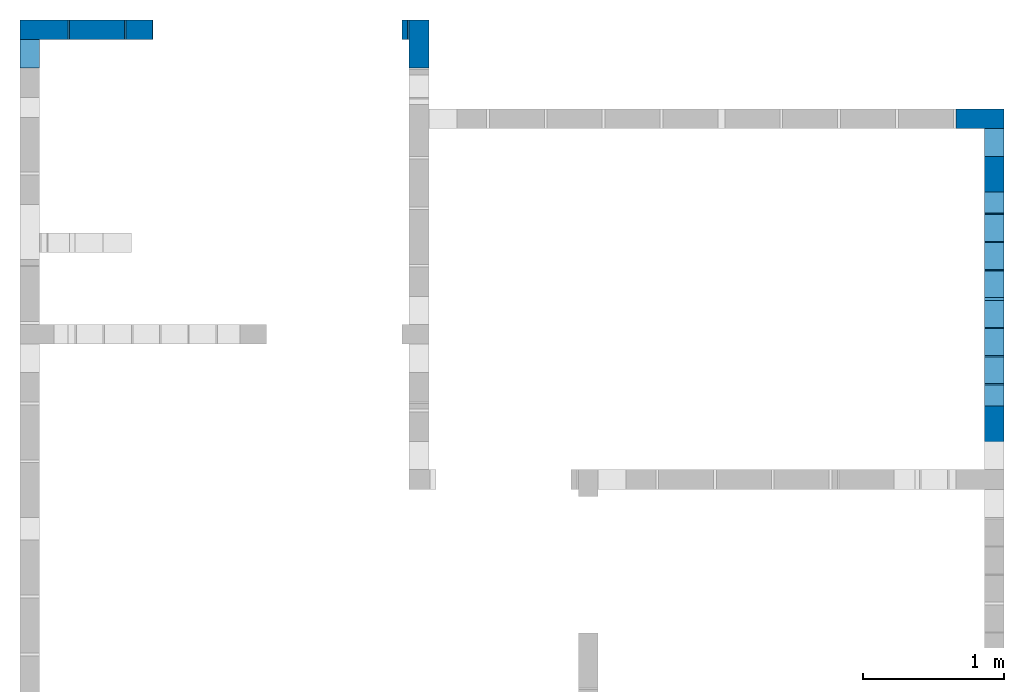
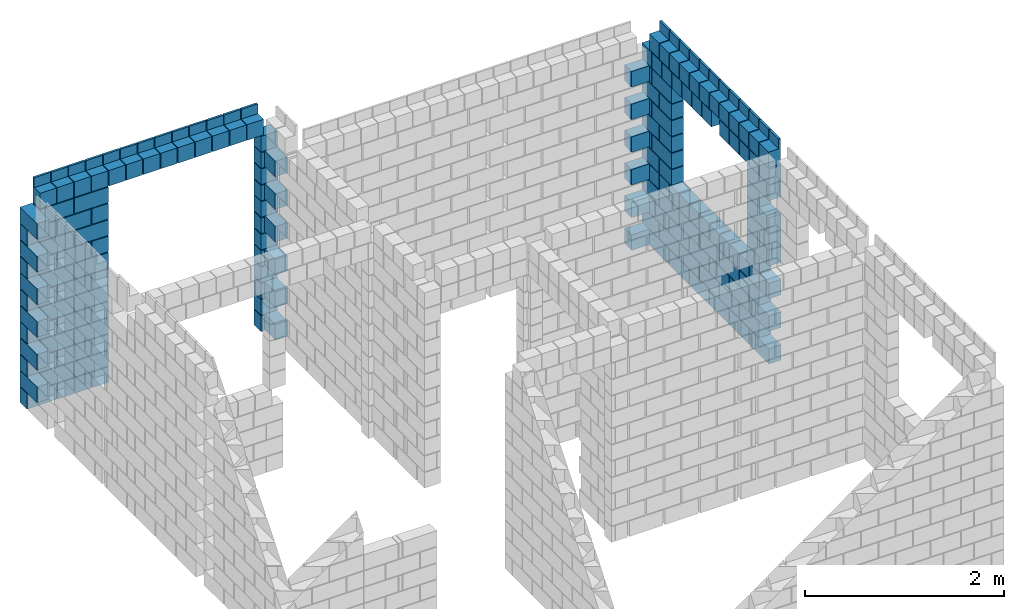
# One storey, part 11 of 12: 6 walls.
"""IFC4 building model written with IfcOpenShell, lengths in centimetres."""

from ifc_helpers import new_model, si_unit, derived_unit, frame, origin, origin_with_axes, origin_2d_with_axis, place, context, project, spatial, rectangle, extrude, element, save


model = new_model("IFC4")

# Units and contexts
model_context = context("Model", 3, precision=1e-05, world=origin_with_axes(), identifier="Body")
ifc_project = project(units=[si_unit("LENGTHUNIT", "METRE", prefix="CENTI"), si_unit("VOLUMEUNIT", "CUBIC_METRE"), si_unit("AREAUNIT", "SQUARE_METRE"), si_unit("POWERUNIT", "WATT"), si_unit("LUMINOUSFLUXUNIT", "LUMEN"), si_unit("ELECTRICCURRENTUNIT", "AMPERE"), si_unit("PRESSUREUNIT", "PASCAL", prefix="KILO"), si_unit("MASSUNIT", "GRAM", prefix="KILO"), si_unit("PLANEANGLEUNIT", "RADIAN"), derived_unit("VOLUMETRICFLOWRATEUNIT", [(si_unit("LENGTHUNIT", "METRE"), 3), (si_unit("TIMEUNIT", "SECOND"), -1)])], contexts=[model_context])

# Site, building, storey
site_placement = place(None, origin_with_axes())
site = spatial("IfcSite", under=ifc_project, at=site_placement)
building_placement = place(site_placement, origin())
building = spatial("IfcBuilding", under=site, at=building_placement)
storey_placement = place(building_placement, origin_with_axes())
storey = spatial("IfcBuildingStorey", under=building, at=storey_placement, Name="PISO", CompositionType="ELEMENT", Elevation=0.0)

# Walls
wall_1_placement = place(storey_placement, frame((18.0, 866.01, 239.0), z_axis=(0.0, 0.0, 1.0), x_axis=(1.0, 0.0, 0.0)))
element("IfcWall", 1, at=wall_1_placement, inside=storey, context=model_context, shape_type="SolidModel", body=[
    extrude(rectangle(XDim=34.0, YDim=14.0, at=origin_2d_with_axis()), frame((0.0, 10.0, -239.0), z_axis=(0.0, 0.0, 1.0), x_axis=(1.0, 0.0, 0.0)), (0.0, 0.0, 1.0), 19.0),
    extrude(rectangle(XDim=34.0, YDim=14.0, at=origin_2d_with_axis()), frame((-10.0, 0.0, -219.0), z_axis=(0.0, 0.0, 1.0), x_axis=(0.0, -1.0, 0.0)), (0.0, 0.0, 1.0), 19.0),
    extrude(rectangle(XDim=34.0, YDim=14.0, at=origin_2d_with_axis()), frame((0.0, 10.0, -199.0), z_axis=(0.0, 0.0, 1.0), x_axis=(1.0, 0.0, 0.0)), (0.0, 0.0, 1.0), 19.0),
    extrude(rectangle(XDim=34.0, YDim=14.0, at=origin_2d_with_axis()), frame((-10.0, 0.0, -179.0), z_axis=(0.0, 0.0, 1.0), x_axis=(0.0, -1.0, 0.0)), (0.0, 0.0, 1.0), 19.0),
    extrude(rectangle(XDim=34.0, YDim=14.0, at=origin_2d_with_axis()), frame((0.0, 10.0, -159.0), z_axis=(0.0, 0.0, 1.0), x_axis=(1.0, 0.0, 0.0)), (0.0, 0.0, 1.0), 19.0),
    extrude(rectangle(XDim=34.0, YDim=14.0, at=origin_2d_with_axis()), frame((-10.0, 0.0, -139.0), z_axis=(0.0, 0.0, 1.0), x_axis=(0.0, -1.0, 0.0)), (0.0, 0.0, 1.0), 19.0),
    extrude(rectangle(XDim=34.0, YDim=14.0, at=origin_2d_with_axis()), frame((0.0, 10.0, -119.0), z_axis=(0.0, 0.0, 1.0), x_axis=(1.0, 0.0, 0.0)), (0.0, 0.0, 1.0), 19.0),
    extrude(rectangle(XDim=34.0, YDim=14.0, at=origin_2d_with_axis()), frame((-10.0, 0.0, -99.0), z_axis=(0.0, 0.0, 1.0), x_axis=(0.0, -1.0, 0.0)), (0.0, 0.0, 1.0), 19.0),
    extrude(rectangle(XDim=34.0, YDim=14.0, at=origin_2d_with_axis()), frame((0.0, 10.0, -79.0), z_axis=(0.0, 0.0, 1.0), x_axis=(1.0, 0.0, 0.0)), (0.0, 0.0, 1.0), 19.0),
    extrude(rectangle(XDim=34.0, YDim=14.0, at=origin_2d_with_axis()), frame((-10.0, 0.0, -59.0), z_axis=(0.0, 0.0, 1.0), x_axis=(0.0, -1.0, 0.0)), (0.0, 0.0, 1.0), 19.0),
    extrude(rectangle(XDim=34.0, YDim=14.0, at=origin_2d_with_axis()), frame((0.0, 10.0, -39.0), z_axis=(0.0, 0.0, 1.0), x_axis=(1.0, 0.0, 0.0)), (0.0, 0.0, 1.0), 19.0),
    extrude(rectangle(XDim=34.0, YDim=14.0, at=origin_2d_with_axis()), frame((-10.0, 0.0, -19.0), z_axis=(0.0, 0.0, 1.0), x_axis=(0.0, -1.0, 0.0)), (0.0, 0.0, 1.0), 19.0),
])
wall_2_placement = place(storey_placement, frame((281.5, 866.01, 239.0), z_axis=(0.0, 0.0, 1.0), x_axis=(1.0, 0.0, 0.0)))
element("IfcWall", 2, at=wall_2_placement, inside=storey, context=model_context, shape_type="SolidModel", body=[
    extrude(rectangle(XDim=34.0, YDim=14.0, at=origin_2d_with_axis()), frame((2.5, 0.0, -239.0), z_axis=(0.0, 0.0, 1.0), x_axis=(0.0, -1.0, 0.0)), (0.0, 0.0, 1.0), 19.0),
    extrude(rectangle(XDim=19.0, YDim=14.0, at=origin_2d_with_axis()), frame((0.0, 10.0, -219.0), z_axis=(0.0, 0.0, 1.0), x_axis=(-1.0, 0.0, 0.0)), (0.0, 0.0, 1.0), 19.0),
    extrude(rectangle(XDim=34.0, YDim=14.0, at=origin_2d_with_axis()), frame((2.5, 0.0, -199.0), z_axis=(0.0, 0.0, 1.0), x_axis=(0.0, -1.0, 0.0)), (0.0, 0.0, 1.0), 19.0),
    extrude(rectangle(XDim=19.0, YDim=14.0, at=origin_2d_with_axis()), frame((0.0, 10.0, -179.0), z_axis=(0.0, 0.0, 1.0), x_axis=(-1.0, 0.0, 0.0)), (0.0, 0.0, 1.0), 19.0),
    extrude(rectangle(XDim=34.0, YDim=14.0, at=origin_2d_with_axis()), frame((2.5, 0.0, -159.0), z_axis=(0.0, 0.0, 1.0), x_axis=(0.0, -1.0, 0.0)), (0.0, 0.0, 1.0), 19.0),
    extrude(rectangle(XDim=19.0, YDim=14.0, at=origin_2d_with_axis()), frame((0.0, 10.0, -139.0), z_axis=(0.0, 0.0, 1.0), x_axis=(-1.0, 0.0, 0.0)), (0.0, 0.0, 1.0), 19.0),
    extrude(rectangle(XDim=34.0, YDim=14.0, at=origin_2d_with_axis()), frame((2.5, 0.0, -119.0), z_axis=(0.0, 0.0, 1.0), x_axis=(0.0, -1.0, 0.0)), (0.0, 0.0, 1.0), 19.0),
    extrude(rectangle(XDim=19.0, YDim=14.0, at=origin_2d_with_axis()), frame((0.0, 10.0, -99.0), z_axis=(0.0, 0.0, 1.0), x_axis=(-1.0, 0.0, 0.0)), (0.0, 0.0, 1.0), 19.0),
    extrude(rectangle(XDim=34.0, YDim=14.0, at=origin_2d_with_axis()), frame((2.5, 0.0, -79.0), z_axis=(0.0, 0.0, 1.0), x_axis=(0.0, -1.0, 0.0)), (0.0, 0.0, 1.0), 19.0),
    extrude(rectangle(XDim=19.0, YDim=14.0, at=origin_2d_with_axis()), frame((0.0, 10.0, -59.0), z_axis=(0.0, 0.0, 1.0), x_axis=(-1.0, 0.0, 0.0)), (0.0, 0.0, 1.0), 19.0),
    extrude(rectangle(XDim=34.0, YDim=14.0, at=origin_2d_with_axis()), frame((2.5, 0.0, -39.0), z_axis=(0.0, 0.0, 1.0), x_axis=(0.0, -1.0, 0.0)), (0.0, 0.0, 1.0), 19.0),
    extrude(rectangle(XDim=19.0, YDim=14.0, at=origin_2d_with_axis()), frame((0.0, 10.0, -19.0), z_axis=(0.0, 0.0, 1.0), x_axis=(-1.0, 0.0, 0.0)), (0.0, 0.0, 1.0), 19.0),
])
wall_3_placement = place(storey_placement, frame((682.01, 803.01, 239.0), z_axis=(0.0, 0.0, 1.0), x_axis=(1.0, 0.0, 0.0)))
element("IfcWall", 3, at=wall_3_placement, inside=storey, context=model_context, shape_type="SolidModel", body=[
    extrude(rectangle(XDim=34.0, YDim=14.0, at=origin_2d_with_axis()), frame((0.0, 10.0, -239.0), z_axis=(0.0, 0.0, 1.0), x_axis=(-1.0, 0.0, 0.0)), (0.0, 0.0, 1.0), 19.0),
    extrude(rectangle(XDim=34.0, YDim=14.0, at=origin_2d_with_axis()), frame((10.0, 0.0, -219.0), z_axis=(0.0, 0.0, 1.0), x_axis=(0.0, -1.0, 0.0)), (0.0, 0.0, 1.0), 19.0),
    extrude(rectangle(XDim=34.0, YDim=14.0, at=origin_2d_with_axis()), frame((0.0, 10.0, -199.0), z_axis=(0.0, 0.0, 1.0), x_axis=(-1.0, 0.0, 0.0)), (0.0, 0.0, 1.0), 19.0),
    extrude(rectangle(XDim=34.0, YDim=14.0, at=origin_2d_with_axis()), frame((10.0, 0.0, -179.0), z_axis=(0.0, 0.0, 1.0), x_axis=(0.0, -1.0, 0.0)), (0.0, 0.0, 1.0), 19.0),
    extrude(rectangle(XDim=34.0, YDim=14.0, at=origin_2d_with_axis()), frame((0.0, 10.0, -159.0), z_axis=(0.0, 0.0, 1.0), x_axis=(-1.0, 0.0, 0.0)), (0.0, 0.0, 1.0), 19.0),
    extrude(rectangle(XDim=34.0, YDim=14.0, at=origin_2d_with_axis()), frame((10.0, 0.0, -139.0), z_axis=(0.0, 0.0, 1.0), x_axis=(0.0, -1.0, 0.0)), (0.0, 0.0, 1.0), 19.0),
    extrude(rectangle(XDim=34.0, YDim=14.0, at=origin_2d_with_axis()), frame((0.0, 10.0, -119.0), z_axis=(0.0, 0.0, 1.0), x_axis=(-1.0, 0.0, 0.0)), (0.0, 0.0, 1.0), 19.0),
    extrude(rectangle(XDim=34.0, YDim=14.0, at=origin_2d_with_axis()), frame((10.0, 0.0, -99.0), z_axis=(0.0, 0.0, 1.0), x_axis=(0.0, -1.0, 0.0)), (0.0, 0.0, 1.0), 19.0),
    extrude(rectangle(XDim=34.0, YDim=14.0, at=origin_2d_with_axis()), frame((0.0, 10.0, -79.0), z_axis=(0.0, 0.0, 1.0), x_axis=(-1.0, 0.0, 0.0)), (0.0, 0.0, 1.0), 19.0),
    extrude(rectangle(XDim=34.0, YDim=14.0, at=origin_2d_with_axis()), frame((10.0, 0.0, -59.0), z_axis=(0.0, 0.0, 1.0), x_axis=(0.0, -1.0, 0.0)), (0.0, 0.0, 1.0), 19.0),
    extrude(rectangle(XDim=34.0, YDim=14.0, at=origin_2d_with_axis()), frame((0.0, 10.0, -39.0), z_axis=(0.0, 0.0, 1.0), x_axis=(-1.0, 0.0, 0.0)), (0.0, 0.0, 1.0), 19.0),
    extrude(rectangle(XDim=19.0, YDim=14.0, at=origin_2d_with_axis()), frame((10.0, 7.5, -19.0), z_axis=(0.0, 0.0, 1.0), x_axis=(0.0, -1.0, 0.0)), (0.0, 0.0, 1.0), 19.0),
])
wall_4_placement = place(storey_placement, frame((55.642857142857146, 876.01, 271.0), z_axis=(0.0, 0.0, 1.0), x_axis=(1.0, 0.0, 0.0)))
element("IfcWall", 4, at=wall_4_placement, inside=storey, Name="PAR-PISO-1", context=model_context, shape_type="SolidModel", body=[
    extrude(rectangle(XDim=39.0, YDim=14.0, at=origin_2d_with_axis()), frame((0.0, 0.0, -271.0), z_axis=(0.0, 0.0, 1.0), x_axis=(1.0, 0.0, 0.0)), (0.0, 0.0, 1.0), 19.0),
    extrude(rectangle(XDim=19.0, YDim=14.0, at=origin_2d_with_axis()), frame((30.0, 0.0, -271.0), z_axis=(0.0, 0.0, 1.0), x_axis=(1.0, 0.0, 0.0)), (0.0, 0.0, 1.0), 19.0),
    extrude(rectangle(XDim=39.0, YDim=14.0, at=origin_2d_with_axis()), frame((-20.0, 0.0, -251.0), z_axis=(0.0, 0.0, 1.0), x_axis=(1.0, 0.0, 0.0)), (0.0, 0.0, 1.0), 19.0),
    extrude(rectangle(XDim=39.0, YDim=14.0, at=origin_2d_with_axis()), frame((20.142857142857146, 0.0, -251.0), z_axis=(0.0, 0.0, 1.0), x_axis=(1.0, 0.0, 0.0)), (0.0, 0.0, 1.0), 19.0),
    extrude(rectangle(XDim=39.0, YDim=14.0, at=origin_2d_with_axis()), frame((0.0, 0.0, -231.0), z_axis=(0.0, 0.0, 1.0), x_axis=(1.0, 0.0, 0.0)), (0.0, 0.0, 1.0), 19.0),
    extrude(rectangle(XDim=19.0, YDim=14.0, at=origin_2d_with_axis()), frame((30.0, 0.0, -231.0), z_axis=(0.0, 0.0, 1.0), x_axis=(1.0, 0.0, 0.0)), (0.0, 0.0, 1.0), 19.0),
    extrude(rectangle(XDim=39.0, YDim=14.0, at=origin_2d_with_axis()), frame((-20.0, 0.0, -211.0), z_axis=(0.0, 0.0, 1.0), x_axis=(1.0, 0.0, 0.0)), (0.0, 0.0, 1.0), 19.0),
    extrude(rectangle(XDim=39.0, YDim=14.0, at=origin_2d_with_axis()), frame((20.142857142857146, 0.0, -211.0), z_axis=(0.0, 0.0, 1.0), x_axis=(1.0, 0.0, 0.0)), (0.0, 0.0, 1.0), 19.0),
    extrude(rectangle(XDim=39.0, YDim=14.0, at=origin_2d_with_axis()), frame((0.0, 0.0, -191.0), z_axis=(0.0, 0.0, 1.0), x_axis=(1.0, 0.0, 0.0)), (0.0, 0.0, 1.0), 19.0),
    extrude(rectangle(XDim=19.0, YDim=14.0, at=origin_2d_with_axis()), frame((30.0, 0.0, -191.0), z_axis=(0.0, 0.0, 1.0), x_axis=(1.0, 0.0, 0.0)), (0.0, 0.0, 1.0), 19.0),
    extrude(rectangle(XDim=39.0, YDim=14.0, at=origin_2d_with_axis()), frame((-20.0, 0.0, -171.0), z_axis=(0.0, 0.0, 1.0), x_axis=(1.0, 0.0, 0.0)), (0.0, 0.0, 1.0), 19.0),
    extrude(rectangle(XDim=39.0, YDim=14.0, at=origin_2d_with_axis()), frame((20.142857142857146, 0.0, -171.0), z_axis=(0.0, 0.0, 1.0), x_axis=(1.0, 0.0, 0.0)), (0.0, 0.0, 1.0), 19.0),
    extrude(rectangle(XDim=39.0, YDim=14.0, at=origin_2d_with_axis()), frame((0.0, 0.0, -151.0), z_axis=(0.0, 0.0, 1.0), x_axis=(1.0, 0.0, 0.0)), (0.0, 0.0, 1.0), 19.0),
    extrude(rectangle(XDim=19.0, YDim=14.0, at=origin_2d_with_axis()), frame((30.0, 0.0, -151.0), z_axis=(0.0, 0.0, 1.0), x_axis=(1.0, 0.0, 0.0)), (0.0, 0.0, 1.0), 19.0),
    extrude(rectangle(XDim=39.0, YDim=14.0, at=origin_2d_with_axis()), frame((-20.0, 0.0, -131.0), z_axis=(0.0, 0.0, 1.0), x_axis=(1.0, 0.0, 0.0)), (0.0, 0.0, 1.0), 19.0),
    extrude(rectangle(XDim=39.0, YDim=14.0, at=origin_2d_with_axis()), frame((20.142857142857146, 0.0, -131.0), z_axis=(0.0, 0.0, 1.0), x_axis=(1.0, 0.0, 0.0)), (0.0, 0.0, 1.0), 19.0),
    extrude(rectangle(XDim=39.0, YDim=14.0, at=origin_2d_with_axis()), frame((0.0, 0.0, -111.0), z_axis=(0.0, 0.0, 1.0), x_axis=(1.0, 0.0, 0.0)), (0.0, 0.0, 1.0), 19.0),
    extrude(rectangle(XDim=19.0, YDim=14.0, at=origin_2d_with_axis()), frame((30.0, 0.0, -111.0), z_axis=(0.0, 0.0, 1.0), x_axis=(1.0, 0.0, 0.0)), (0.0, 0.0, 1.0), 19.0),
    extrude(rectangle(XDim=39.0, YDim=14.0, at=origin_2d_with_axis()), frame((-20.0, 0.0, -91.0), z_axis=(0.0, 0.0, 1.0), x_axis=(1.0, 0.0, 0.0)), (0.0, 0.0, 1.0), 19.0),
    extrude(rectangle(XDim=39.0, YDim=14.0, at=origin_2d_with_axis()), frame((20.142857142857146, 0.0, -91.0), z_axis=(0.0, 0.0, 1.0), x_axis=(1.0, 0.0, 0.0)), (0.0, 0.0, 1.0), 19.0),
    extrude(rectangle(XDim=39.0, YDim=14.0, at=origin_2d_with_axis()), frame((0.0, 0.0, -71.0), z_axis=(0.0, 0.0, 1.0), x_axis=(1.0, 0.0, 0.0)), (0.0, 0.0, 1.0), 19.0),
    extrude(rectangle(XDim=19.0, YDim=14.0, at=origin_2d_with_axis()), frame((30.0, 0.0, -71.0), z_axis=(0.0, 0.0, 1.0), x_axis=(1.0, 0.0, 0.0)), (0.0, 0.0, 1.0), 19.0),
    extrude(rectangle(XDim=39.0, YDim=14.0, at=origin_2d_with_axis()), frame((-20.0, 0.0, -51.0), z_axis=(0.0, 0.0, 1.0), x_axis=(1.0, 0.0, 0.0)), (0.0, 0.0, 1.0), 19.0),
    extrude(rectangle(XDim=39.0, YDim=14.0, at=origin_2d_with_axis()), frame((20.142857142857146, 0.0, -51.0), z_axis=(0.0, 0.0, 1.0), x_axis=(1.0, 0.0, 0.0)), (0.0, 0.0, 1.0), 19.0),
    extrude(rectangle(XDim=19.0, YDim=2.5, at=origin_2d_with_axis()), frame((-30.142857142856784, 5.75, -12.0), z_axis=(0.0, 0.0, 1.0), x_axis=(1.0, 0.0, 0.0)), (0.0, 0.0, 1.0), 12.0),
    extrude(rectangle(XDim=19.0, YDim=14.0, at=origin_2d_with_axis()), frame((-30.142857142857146, 0.0, -31.0), z_axis=(0.0, 0.0, 1.0), x_axis=(1.0, 0.0, 0.0)), (0.0, 0.0, 1.0), 19.0),
    extrude(rectangle(XDim=19.0, YDim=2.5, at=origin_2d_with_axis()), frame((-10.142857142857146, 5.75, -12.0), z_axis=(0.0, 0.0, 1.0), x_axis=(1.0, 0.0, 0.0)), (0.0, 0.0, 1.0), 12.0),
    extrude(rectangle(XDim=19.0, YDim=14.0, at=origin_2d_with_axis()), frame((-10.142857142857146, 0.0, -31.0), z_axis=(0.0, 0.0, 1.0), x_axis=(1.0, 0.0, 0.0)), (0.0, 0.0, 1.0), 19.0),
    extrude(rectangle(XDim=19.0, YDim=2.5, at=origin_2d_with_axis()), frame((9.857142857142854, 5.75, -12.0), z_axis=(0.0, 0.0, 1.0), x_axis=(1.0, 0.0, 0.0)), (0.0, 0.0, 1.0), 12.0),
    extrude(rectangle(XDim=19.0, YDim=14.0, at=origin_2d_with_axis()), frame((9.857142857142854, 0.0, -31.0), z_axis=(0.0, 0.0, 1.0), x_axis=(1.0, 0.0, 0.0)), (0.0, 0.0, 1.0), 19.0),
    extrude(rectangle(XDim=19.0, YDim=2.5, at=origin_2d_with_axis()), frame((29.857142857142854, 5.75, -12.0), z_axis=(0.0, 0.0, 1.0), x_axis=(1.0, 0.0, 0.0)), (0.0, 0.0, 1.0), 12.0),
    extrude(rectangle(XDim=19.0, YDim=14.0, at=origin_2d_with_axis()), frame((29.857142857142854, 0.0, -31.0), z_axis=(0.0, 0.0, 1.0), x_axis=(1.0, 0.0, 0.0)), (0.0, 0.0, 1.0), 19.0),
])
wall_5_placement = place(storey_placement, frame((186.0, 876.01, 271.0), z_axis=(0.0, 0.0, 1.0), x_axis=(1.0, 0.0, 0.0)))
element("IfcWall", 5, at=wall_5_placement, inside=storey, Name="PAR-PISO-1", context=model_context, shape_type="SolidModel", body=[
    extrude(rectangle(XDim=4.0, YDim=14.0, at=origin_2d_with_axis()), frame((88.0, 0.0, -271.0), z_axis=(0.0, 0.0, 1.0), x_axis=(1.0, 0.0, 0.0)), (0.0, 0.0, 1.0), 19.0),
    extrude(rectangle(XDim=4.0, YDim=14.0, at=origin_2d_with_axis()), frame((88.0, 0.0, -231.0), z_axis=(0.0, 0.0, 1.0), x_axis=(1.0, 0.0, 0.0)), (0.0, 0.0, 1.0), 19.0),
    extrude(rectangle(XDim=4.0, YDim=14.0, at=origin_2d_with_axis()), frame((88.0, 0.0, -191.0), z_axis=(0.0, 0.0, 1.0), x_axis=(1.0, 0.0, 0.0)), (0.0, 0.0, 1.0), 19.0),
    extrude(rectangle(XDim=4.0, YDim=14.0, at=origin_2d_with_axis()), frame((88.0, 0.0, -151.0), z_axis=(0.0, 0.0, 1.0), x_axis=(1.0, 0.0, 0.0)), (0.0, 0.0, 1.0), 19.0),
    extrude(rectangle(XDim=4.0, YDim=14.0, at=origin_2d_with_axis()), frame((88.0, 0.0, -111.0), z_axis=(0.0, 0.0, 1.0), x_axis=(1.0, 0.0, 0.0)), (0.0, 0.0, 1.0), 19.0),
    extrude(rectangle(XDim=4.0, YDim=14.0, at=origin_2d_with_axis()), frame((88.0, 0.0, -71.0), z_axis=(0.0, 0.0, 1.0), x_axis=(1.0, 0.0, 0.0)), (0.0, 0.0, 1.0), 19.0),
    extrude(rectangle(XDim=19.0, YDim=2.5, at=origin_2d_with_axis()), frame((-80.5, 5.75, -12.0), z_axis=(0.0, 0.0, 1.0), x_axis=(1.0, 0.0, 0.0)), (0.0, 0.0, 1.0), 12.0),
    extrude(rectangle(XDim=19.0, YDim=14.0, at=origin_2d_with_axis()), frame((-80.5, 0.0, -31.0), z_axis=(0.0, 0.0, 1.0), x_axis=(1.0, 0.0, 0.0)), (0.0, 0.0, 1.0), 19.0),
    extrude(rectangle(XDim=19.0, YDim=2.5, at=origin_2d_with_axis()), frame((-60.5, 5.75, -12.0), z_axis=(0.0, 0.0, 1.0), x_axis=(1.0, 0.0, 0.0)), (0.0, 0.0, 1.0), 12.0),
    extrude(rectangle(XDim=19.0, YDim=14.0, at=origin_2d_with_axis()), frame((-60.5, 0.0, -31.0), z_axis=(0.0, 0.0, 1.0), x_axis=(1.0, 0.0, 0.0)), (0.0, 0.0, 1.0), 19.0),
    extrude(rectangle(XDim=19.0, YDim=2.5, at=origin_2d_with_axis()), frame((-40.5, 5.75, -12.0), z_axis=(0.0, 0.0, 1.0), x_axis=(1.0, 0.0, 0.0)), (0.0, 0.0, 1.0), 12.0),
    extrude(rectangle(XDim=19.0, YDim=14.0, at=origin_2d_with_axis()), frame((-40.5, 0.0, -31.0), z_axis=(0.0, 0.0, 1.0), x_axis=(1.0, 0.0, 0.0)), (0.0, 0.0, 1.0), 19.0),
    extrude(rectangle(XDim=19.0, YDim=2.5, at=origin_2d_with_axis()), frame((-20.5, 5.75, -12.0), z_axis=(0.0, 0.0, 1.0), x_axis=(1.0, 0.0, 0.0)), (0.0, 0.0, 1.0), 12.0),
    extrude(rectangle(XDim=19.0, YDim=14.0, at=origin_2d_with_axis()), frame((-20.5, 0.0, -31.0), z_axis=(0.0, 0.0, 1.0), x_axis=(1.0, 0.0, 0.0)), (0.0, 0.0, 1.0), 19.0),
    extrude(rectangle(XDim=19.0, YDim=2.5, at=origin_2d_with_axis()), frame((-0.5, 5.75, -12.0), z_axis=(0.0, 0.0, 1.0), x_axis=(1.0, 0.0, 0.0)), (0.0, 0.0, 1.0), 12.0),
    extrude(rectangle(XDim=19.0, YDim=14.0, at=origin_2d_with_axis()), frame((-0.5, 0.0, -31.0), z_axis=(0.0, 0.0, 1.0), x_axis=(1.0, 0.0, 0.0)), (0.0, 0.0, 1.0), 19.0),
    extrude(rectangle(XDim=19.0, YDim=2.5, at=origin_2d_with_axis()), frame((19.5, 5.75, -12.0), z_axis=(0.0, 0.0, 1.0), x_axis=(1.0, 0.0, 0.0)), (0.0, 0.0, 1.0), 12.0),
    extrude(rectangle(XDim=19.0, YDim=14.0, at=origin_2d_with_axis()), frame((19.5, 0.0, -31.0), z_axis=(0.0, 0.0, 1.0), x_axis=(1.0, 0.0, 0.0)), (0.0, 0.0, 1.0), 19.0),
    extrude(rectangle(XDim=19.0, YDim=2.5, at=origin_2d_with_axis()), frame((39.5, 5.75, -12.0), z_axis=(0.0, 0.0, 1.0), x_axis=(1.0, 0.0, 0.0)), (0.0, 0.0, 1.0), 12.0),
    extrude(rectangle(XDim=19.0, YDim=14.0, at=origin_2d_with_axis()), frame((39.5, 0.0, -31.0), z_axis=(0.0, 0.0, 1.0), x_axis=(1.0, 0.0, 0.0)), (0.0, 0.0, 1.0), 19.0),
    extrude(rectangle(XDim=19.0, YDim=2.5, at=origin_2d_with_axis()), frame((59.5, 5.75, -12.0), z_axis=(0.0, 0.0, 1.0), x_axis=(1.0, 0.0, 0.0)), (0.0, 0.0, 1.0), 12.0),
    extrude(rectangle(XDim=19.0, YDim=14.0, at=origin_2d_with_axis()), frame((59.5, 0.0, -31.0), z_axis=(0.0, 0.0, 1.0), x_axis=(1.0, 0.0, 0.0)), (0.0, 0.0, 1.0), 19.0),
    extrude(rectangle(XDim=19.0, YDim=2.5, at=origin_2d_with_axis()), frame((79.5, 5.75, -12.0), z_axis=(0.0, 0.0, 1.0), x_axis=(1.0, 0.0, 0.0)), (0.0, 0.0, 1.0), 12.0),
    extrude(rectangle(XDim=19.0, YDim=14.0, at=origin_2d_with_axis()), frame((79.5, 0.0, -31.0), z_axis=(0.0, 0.0, 1.0), x_axis=(1.0, 0.0, 0.0)), (0.0, 0.0, 1.0), 19.0),
])
wall_6_placement = place(storey_placement, frame((692.01, 685.01, 271.0), z_axis=(0.0, 0.0, 1.0), x_axis=(1.0, 0.0, 0.0)))
element("IfcWall", 6, at=wall_6_placement, inside=storey, Name="PAR-PISO-15", context=model_context, shape_type="SolidModel", body=[
    extrude(rectangle(XDim=39.0, YDim=14.0, at=origin_2d_with_axis()), frame((0.0, 100.35714285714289, -271.0), z_axis=(0.0, 0.0, 1.0), x_axis=(0.0, -1.0, 0.0)), (0.0, 0.0, 1.0), 19.0),
    extrude(rectangle(XDim=39.0, YDim=14.0, at=origin_2d_with_axis()), frame((0.0, 60.214285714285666, -271.0), z_axis=(0.0, 0.0, 1.0), x_axis=(0.0, -1.0, 0.0)), (0.0, 0.0, 1.0), 19.0),
    extrude(rectangle(XDim=39.0, YDim=14.0, at=origin_2d_with_axis()), frame((0.0, 20.071428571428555, -271.0), z_axis=(0.0, 0.0, 1.0), x_axis=(0.0, -1.0, 0.0)), (0.0, 0.0, 1.0), 19.0),
    extrude(rectangle(XDim=39.0, YDim=14.0, at=origin_2d_with_axis()), frame((0.0, -20.071428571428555, -271.0), z_axis=(0.0, 0.0, 1.0), x_axis=(0.0, -1.0, 0.0)), (0.0, 0.0, 1.0), 19.0),
    extrude(rectangle(XDim=39.0, YDim=14.0, at=origin_2d_with_axis()), frame((0.0, -60.21428571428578, -271.0), z_axis=(0.0, 0.0, 1.0), x_axis=(0.0, -1.0, 0.0)), (0.0, 0.0, 1.0), 19.0),
    extrude(rectangle(XDim=39.0, YDim=14.0, at=origin_2d_with_axis()), frame((0.0, -100.35714285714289, -271.0), z_axis=(0.0, 0.0, 1.0), x_axis=(0.0, -1.0, 0.0)), (0.0, 0.0, 1.0), 19.0),
    extrude(rectangle(XDim=39.0, YDim=14.0, at=origin_2d_with_axis()), frame((0.0, 80.33333333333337, -251.0), z_axis=(0.0, 0.0, 1.0), x_axis=(0.0, -1.0, 0.0)), (0.0, 0.0, 1.0), 19.0),
    extrude(rectangle(XDim=39.0, YDim=14.0, at=origin_2d_with_axis()), frame((0.0, 40.16666666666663, -251.0), z_axis=(0.0, 0.0, 1.0), x_axis=(0.0, -1.0, 0.0)), (0.0, 0.0, 1.0), 19.0),
    extrude(rectangle(XDim=39.0, YDim=14.0, at=origin_2d_with_axis()), frame((0.0, 0.0, -251.0), z_axis=(0.0, 0.0, 1.0), x_axis=(0.0, -1.0, 0.0)), (0.0, 0.0, 1.0), 19.0),
    extrude(rectangle(XDim=39.0, YDim=14.0, at=origin_2d_with_axis()), frame((0.0, -40.16666666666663, -251.0), z_axis=(0.0, 0.0, 1.0), x_axis=(0.0, -1.0, 0.0)), (0.0, 0.0, 1.0), 19.0),
    extrude(rectangle(XDim=39.0, YDim=14.0, at=origin_2d_with_axis()), frame((0.0, -80.33333333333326, -251.0), z_axis=(0.0, 0.0, 1.0), x_axis=(0.0, -1.0, 0.0)), (0.0, 0.0, 1.0), 19.0),
    extrude(rectangle(XDim=39.0, YDim=14.0, at=origin_2d_with_axis()), frame((0.0, 100.35714285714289, -231.0), z_axis=(0.0, 0.0, 1.0), x_axis=(0.0, -1.0, 0.0)), (0.0, 0.0, 1.0), 19.0),
    extrude(rectangle(XDim=39.0, YDim=14.0, at=origin_2d_with_axis()), frame((0.0, 60.214285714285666, -231.0), z_axis=(0.0, 0.0, 1.0), x_axis=(0.0, -1.0, 0.0)), (0.0, 0.0, 1.0), 19.0),
    extrude(rectangle(XDim=39.0, YDim=14.0, at=origin_2d_with_axis()), frame((0.0, 20.071428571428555, -231.0), z_axis=(0.0, 0.0, 1.0), x_axis=(0.0, -1.0, 0.0)), (0.0, 0.0, 1.0), 19.0),
    extrude(rectangle(XDim=39.0, YDim=14.0, at=origin_2d_with_axis()), frame((0.0, -20.071428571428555, -231.0), z_axis=(0.0, 0.0, 1.0), x_axis=(0.0, -1.0, 0.0)), (0.0, 0.0, 1.0), 19.0),
    extrude(rectangle(XDim=39.0, YDim=14.0, at=origin_2d_with_axis()), frame((0.0, -60.21428571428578, -231.0), z_axis=(0.0, 0.0, 1.0), x_axis=(0.0, -1.0, 0.0)), (0.0, 0.0, 1.0), 19.0),
    extrude(rectangle(XDim=39.0, YDim=14.0, at=origin_2d_with_axis()), frame((0.0, -100.35714285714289, -231.0), z_axis=(0.0, 0.0, 1.0), x_axis=(0.0, -1.0, 0.0)), (0.0, 0.0, 1.0), 19.0),
    extrude(rectangle(XDim=39.0, YDim=14.0, at=origin_2d_with_axis()), frame((0.0, 80.33333333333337, -211.0), z_axis=(0.0, 0.0, 1.0), x_axis=(0.0, -1.0, 0.0)), (0.0, 0.0, 1.0), 19.0),
    extrude(rectangle(XDim=39.0, YDim=14.0, at=origin_2d_with_axis()), frame((0.0, 40.16666666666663, -211.0), z_axis=(0.0, 0.0, 1.0), x_axis=(0.0, -1.0, 0.0)), (0.0, 0.0, 1.0), 19.0),
    extrude(rectangle(XDim=39.0, YDim=14.0, at=origin_2d_with_axis()), frame((0.0, 0.0, -211.0), z_axis=(0.0, 0.0, 1.0), x_axis=(0.0, -1.0, 0.0)), (0.0, 0.0, 1.0), 19.0),
    extrude(rectangle(XDim=39.0, YDim=14.0, at=origin_2d_with_axis()), frame((0.0, -40.16666666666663, -211.0), z_axis=(0.0, 0.0, 1.0), x_axis=(0.0, -1.0, 0.0)), (0.0, 0.0, 1.0), 19.0),
    extrude(rectangle(XDim=39.0, YDim=14.0, at=origin_2d_with_axis()), frame((0.0, -80.33333333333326, -211.0), z_axis=(0.0, 0.0, 1.0), x_axis=(0.0, -1.0, 0.0)), (0.0, 0.0, 1.0), 19.0),
    extrude(rectangle(XDim=19.0, YDim=14.0, at=origin_2d_with_axis()), frame((0.0, 110.5, -191.0), z_axis=(0.0, 0.0, 1.0), x_axis=(0.0, -1.0, 0.0)), (0.0, 0.0, 1.0), 19.0),
    extrude(rectangle(XDim=19.0, YDim=14.0, at=origin_2d_with_axis()), frame((0.0, 90.5, -191.0), z_axis=(0.0, 0.0, 1.0), x_axis=(0.0, -1.0, 0.0)), (0.0, 0.0, 1.0), 19.0),
    extrude(rectangle(XDim=19.0, YDim=14.0, at=origin_2d_with_axis()), frame((0.0, 70.5, -191.0), z_axis=(0.0, 0.0, 1.0), x_axis=(0.0, -1.0, 0.0)), (0.0, 0.0, 1.0), 19.0),
    extrude(rectangle(XDim=19.0, YDim=14.0, at=origin_2d_with_axis()), frame((0.0, 50.5, -191.0), z_axis=(0.0, 0.0, 1.0), x_axis=(0.0, -1.0, 0.0)), (0.0, 0.0, 1.0), 19.0),
    extrude(rectangle(XDim=19.0, YDim=14.0, at=origin_2d_with_axis()), frame((0.0, 30.5, -191.0), z_axis=(0.0, 0.0, 1.0), x_axis=(0.0, -1.0, 0.0)), (0.0, 0.0, 1.0), 19.0),
    extrude(rectangle(XDim=19.0, YDim=14.0, at=origin_2d_with_axis()), frame((0.0, 10.5, -191.0), z_axis=(0.0, 0.0, 1.0), x_axis=(0.0, -1.0, 0.0)), (0.0, 0.0, 1.0), 19.0),
    extrude(rectangle(XDim=19.0, YDim=14.0, at=origin_2d_with_axis()), frame((0.0, -10.5, -191.0), z_axis=(0.0, 0.0, 1.0), x_axis=(0.0, -1.0, 0.0)), (0.0, 0.0, 1.0), 19.0),
    extrude(rectangle(XDim=19.0, YDim=14.0, at=origin_2d_with_axis()), frame((0.0, -30.5, -191.0), z_axis=(0.0, 0.0, 1.0), x_axis=(0.0, -1.0, 0.0)), (0.0, 0.0, 1.0), 19.0),
    extrude(rectangle(XDim=19.0, YDim=14.0, at=origin_2d_with_axis()), frame((0.0, -50.5, -191.0), z_axis=(0.0, 0.0, 1.0), x_axis=(0.0, -1.0, 0.0)), (0.0, 0.0, 1.0), 19.0),
    extrude(rectangle(XDim=19.0, YDim=14.0, at=origin_2d_with_axis()), frame((0.0, -70.5, -191.0), z_axis=(0.0, 0.0, 1.0), x_axis=(0.0, -1.0, 0.0)), (0.0, 0.0, 1.0), 19.0),
    extrude(rectangle(XDim=19.0, YDim=14.0, at=origin_2d_with_axis()), frame((0.0, -90.5, -191.0), z_axis=(0.0, 0.0, 1.0), x_axis=(0.0, -1.0, 0.0)), (0.0, 0.0, 1.0), 19.0),
    extrude(rectangle(XDim=19.0, YDim=14.0, at=origin_2d_with_axis()), frame((0.0, -110.5, -191.0), z_axis=(0.0, 0.0, 1.0), x_axis=(0.0, -1.0, 0.0)), (0.0, 0.0, 1.0), 19.0),
    extrude(rectangle(XDim=24.0, YDim=14.0, at=origin_2d_with_axis()), frame((0.0, -88.0, -171.0), z_axis=(0.0, 0.0, 1.0), x_axis=(0.0, -1.0, 0.0)), (0.0, 0.0, 1.0), 19.0),
    extrude(rectangle(XDim=24.0, YDim=14.0, at=origin_2d_with_axis()), frame((0.0, 88.0, -171.0), z_axis=(0.0, 0.0, 1.0), x_axis=(0.0, -1.0, 0.0)), (0.0, 0.0, 1.0), 19.0),
    extrude(rectangle(XDim=4.0, YDim=14.0, at=origin_2d_with_axis()), frame((0.0, -117.85714285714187, -151.0), z_axis=(0.0, 0.0, 1.0), x_axis=(0.0, -1.0, 0.0)), (0.0, 0.0, 1.0), 19.0),
    extrude(rectangle(XDim=39.0, YDim=14.0, at=origin_2d_with_axis()), frame((0.0, -95.35714285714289, -151.0), z_axis=(0.0, 0.0, 1.0), x_axis=(0.0, -1.0, 0.0)), (0.0, 0.0, 1.0), 19.0),
    extrude(rectangle(XDim=4.0, YDim=14.0, at=origin_2d_with_axis()), frame((0.0, 117.85714285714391, -151.0), z_axis=(0.0, 0.0, 1.0), x_axis=(0.0, -1.0, 0.0)), (0.0, 0.0, 1.0), 19.0),
    extrude(rectangle(XDim=39.0, YDim=14.0, at=origin_2d_with_axis()), frame((0.0, 95.35714285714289, -151.0), z_axis=(0.0, 0.0, 1.0), x_axis=(0.0, -1.0, 0.0)), (0.0, 0.0, 1.0), 19.0),
    extrude(rectangle(XDim=9.0, YDim=14.0, at=origin_2d_with_axis()), frame((0.0, -115.5, -131.0), z_axis=(0.0, 0.0, 1.0), x_axis=(0.0, -1.0, 0.0)), (0.0, 0.0, 1.0), 19.0),
    extrude(rectangle(XDim=34.0, YDim=14.0, at=origin_2d_with_axis()), frame((0.0, -93.0, -131.0), z_axis=(0.0, 0.0, 1.0), x_axis=(0.0, -1.0, 0.0)), (0.0, 0.0, 1.0), 19.0),
    extrude(rectangle(XDim=24.0, YDim=14.0, at=origin_2d_with_axis()), frame((0.0, 88.0, -131.0), z_axis=(0.0, 0.0, 1.0), x_axis=(0.0, -1.0, 0.0)), (0.0, 0.0, 1.0), 19.0),
    extrude(rectangle(XDim=4.0, YDim=14.0, at=origin_2d_with_axis()), frame((0.0, -117.85714285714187, -111.0), z_axis=(0.0, 0.0, 1.0), x_axis=(0.0, -1.0, 0.0)), (0.0, 0.0, 1.0), 19.0),
    extrude(rectangle(XDim=39.0, YDim=14.0, at=origin_2d_with_axis()), frame((0.0, -95.35714285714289, -111.0), z_axis=(0.0, 0.0, 1.0), x_axis=(0.0, -1.0, 0.0)), (0.0, 0.0, 1.0), 19.0),
    extrude(rectangle(XDim=4.0, YDim=14.0, at=origin_2d_with_axis()), frame((0.0, 117.85714285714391, -111.0), z_axis=(0.0, 0.0, 1.0), x_axis=(0.0, -1.0, 0.0)), (0.0, 0.0, 1.0), 19.0),
    extrude(rectangle(XDim=39.0, YDim=14.0, at=origin_2d_with_axis()), frame((0.0, 95.35714285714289, -111.0), z_axis=(0.0, 0.0, 1.0), x_axis=(0.0, -1.0, 0.0)), (0.0, 0.0, 1.0), 19.0),
    extrude(rectangle(XDim=24.0, YDim=14.0, at=origin_2d_with_axis()), frame((0.0, -88.0, -91.0), z_axis=(0.0, 0.0, 1.0), x_axis=(0.0, -1.0, 0.0)), (0.0, 0.0, 1.0), 19.0),
    extrude(rectangle(XDim=24.0, YDim=14.0, at=origin_2d_with_axis()), frame((0.0, 88.0, -91.0), z_axis=(0.0, 0.0, 1.0), x_axis=(0.0, -1.0, 0.0)), (0.0, 0.0, 1.0), 19.0),
    extrude(rectangle(XDim=4.0, YDim=14.0, at=origin_2d_with_axis()), frame((0.0, -117.85714285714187, -71.0), z_axis=(0.0, 0.0, 1.0), x_axis=(0.0, -1.0, 0.0)), (0.0, 0.0, 1.0), 19.0),
    extrude(rectangle(XDim=39.0, YDim=14.0, at=origin_2d_with_axis()), frame((0.0, -95.35714285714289, -71.0), z_axis=(0.0, 0.0, 1.0), x_axis=(0.0, -1.0, 0.0)), (0.0, 0.0, 1.0), 19.0),
    extrude(rectangle(XDim=4.0, YDim=14.0, at=origin_2d_with_axis()), frame((0.0, 117.85714285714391, -71.0), z_axis=(0.0, 0.0, 1.0), x_axis=(0.0, -1.0, 0.0)), (0.0, 0.0, 1.0), 19.0),
    extrude(rectangle(XDim=39.0, YDim=14.0, at=origin_2d_with_axis()), frame((0.0, 95.35714285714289, -71.0), z_axis=(0.0, 0.0, 1.0), x_axis=(0.0, -1.0, 0.0)), (0.0, 0.0, 1.0), 19.0),
    extrude(rectangle(XDim=19.0, YDim=14.0, at=origin_2d_with_axis()), frame((0.0, 105.5, -51.0), z_axis=(0.0, 0.0, 1.0), x_axis=(0.0, -1.0, 0.0)), (0.0, 0.0, 1.0), 19.0),
    extrude(rectangle(XDim=19.0, YDim=14.0, at=origin_2d_with_axis()), frame((0.0, 85.5, -51.0), z_axis=(0.0, 0.0, 1.0), x_axis=(0.0, -1.0, 0.0)), (0.0, 0.0, 1.0), 19.0),
    extrude(rectangle(XDim=19.0, YDim=14.0, at=origin_2d_with_axis()), frame((0.0, 65.5, -51.0), z_axis=(0.0, 0.0, 1.0), x_axis=(0.0, -1.0, 0.0)), (0.0, 0.0, 1.0), 19.0),
    extrude(rectangle(XDim=19.0, YDim=14.0, at=origin_2d_with_axis()), frame((0.0, 45.5, -51.0), z_axis=(0.0, 0.0, 1.0), x_axis=(0.0, -1.0, 0.0)), (0.0, 0.0, 1.0), 19.0),
    extrude(rectangle(XDim=19.0, YDim=14.0, at=origin_2d_with_axis()), frame((0.0, 25.5, -51.0), z_axis=(0.0, 0.0, 1.0), x_axis=(0.0, -1.0, 0.0)), (0.0, 0.0, 1.0), 19.0),
    extrude(rectangle(XDim=19.0, YDim=14.0, at=origin_2d_with_axis()), frame((0.0, 5.5, -51.0), z_axis=(0.0, 0.0, 1.0), x_axis=(0.0, -1.0, 0.0)), (0.0, 0.0, 1.0), 19.0),
    extrude(rectangle(XDim=19.0, YDim=14.0, at=origin_2d_with_axis()), frame((0.0, -30.5, -51.0), z_axis=(0.0, 0.0, 1.0), x_axis=(0.0, -1.0, 0.0)), (0.0, 0.0, 1.0), 19.0),
    extrude(rectangle(XDim=19.0, YDim=14.0, at=origin_2d_with_axis()), frame((0.0, -50.5, -51.0), z_axis=(0.0, 0.0, 1.0), x_axis=(0.0, -1.0, 0.0)), (0.0, 0.0, 1.0), 19.0),
    extrude(rectangle(XDim=19.0, YDim=14.0, at=origin_2d_with_axis()), frame((0.0, -70.5, -51.0), z_axis=(0.0, 0.0, 1.0), x_axis=(0.0, -1.0, 0.0)), (0.0, 0.0, 1.0), 19.0),
    extrude(rectangle(XDim=19.0, YDim=14.0, at=origin_2d_with_axis()), frame((0.0, -90.5, -51.0), z_axis=(0.0, 0.0, 1.0), x_axis=(0.0, -1.0, 0.0)), (0.0, 0.0, 1.0), 19.0),
    extrude(rectangle(XDim=19.0, YDim=14.0, at=origin_2d_with_axis()), frame((0.0, -110.5, -51.0), z_axis=(0.0, 0.0, 1.0), x_axis=(0.0, -1.0, 0.0)), (0.0, 0.0, 1.0), 19.0),
    extrude(rectangle(XDim=19.0, YDim=2.5, at=origin_2d_with_axis()), frame((5.75, 110.5, -12.0), z_axis=(0.0, 0.0, 1.0), x_axis=(0.0, -1.0, 0.0)), (0.0, 0.0, 1.0), 12.0),
    extrude(rectangle(XDim=19.0, YDim=14.0, at=origin_2d_with_axis()), frame((0.0, 110.5, -31.0), z_axis=(0.0, 0.0, 1.0), x_axis=(0.0, -1.0, 0.0)), (0.0, 0.0, 1.0), 19.0),
    extrude(rectangle(XDim=19.0, YDim=2.5, at=origin_2d_with_axis()), frame((5.75, 90.5, -12.0), z_axis=(0.0, 0.0, 1.0), x_axis=(0.0, -1.0, 0.0)), (0.0, 0.0, 1.0), 12.0),
    extrude(rectangle(XDim=19.0, YDim=14.0, at=origin_2d_with_axis()), frame((0.0, 90.5, -31.0), z_axis=(0.0, 0.0, 1.0), x_axis=(0.0, -1.0, 0.0)), (0.0, 0.0, 1.0), 19.0),
    extrude(rectangle(XDim=19.0, YDim=2.5, at=origin_2d_with_axis()), frame((5.75, 70.5, -12.0), z_axis=(0.0, 0.0, 1.0), x_axis=(0.0, -1.0, 0.0)), (0.0, 0.0, 1.0), 12.0),
    extrude(rectangle(XDim=19.0, YDim=14.0, at=origin_2d_with_axis()), frame((0.0, 70.5, -31.0), z_axis=(0.0, 0.0, 1.0), x_axis=(0.0, -1.0, 0.0)), (0.0, 0.0, 1.0), 19.0),
    extrude(rectangle(XDim=19.0, YDim=2.5, at=origin_2d_with_axis()), frame((5.75, 50.5, -12.0), z_axis=(0.0, 0.0, 1.0), x_axis=(0.0, -1.0, 0.0)), (0.0, 0.0, 1.0), 12.0),
    extrude(rectangle(XDim=19.0, YDim=14.0, at=origin_2d_with_axis()), frame((0.0, 50.5, -31.0), z_axis=(0.0, 0.0, 1.0), x_axis=(0.0, -1.0, 0.0)), (0.0, 0.0, 1.0), 19.0),
    extrude(rectangle(XDim=19.0, YDim=2.5, at=origin_2d_with_axis()), frame((5.75, 30.5, -12.0), z_axis=(0.0, 0.0, 1.0), x_axis=(0.0, -1.0, 0.0)), (0.0, 0.0, 1.0), 12.0),
    extrude(rectangle(XDim=19.0, YDim=14.0, at=origin_2d_with_axis()), frame((0.0, 30.5, -31.0), z_axis=(0.0, 0.0, 1.0), x_axis=(0.0, -1.0, 0.0)), (0.0, 0.0, 1.0), 19.0),
    extrude(rectangle(XDim=19.0, YDim=2.5, at=origin_2d_with_axis()), frame((5.75, 10.5, -12.0), z_axis=(0.0, 0.0, 1.0), x_axis=(0.0, -1.0, 0.0)), (0.0, 0.0, 1.0), 12.0),
    extrude(rectangle(XDim=19.0, YDim=14.0, at=origin_2d_with_axis()), frame((0.0, 10.5, -31.0), z_axis=(0.0, 0.0, 1.0), x_axis=(0.0, -1.0, 0.0)), (0.0, 0.0, 1.0), 19.0),
    extrude(rectangle(XDim=19.0, YDim=2.5, at=origin_2d_with_axis()), frame((5.75, -9.5, -12.0), z_axis=(0.0, 0.0, 1.0), x_axis=(0.0, -1.0, 0.0)), (0.0, 0.0, 1.0), 12.0),
    extrude(rectangle(XDim=19.0, YDim=14.0, at=origin_2d_with_axis()), frame((0.0, -9.5, -31.0), z_axis=(0.0, 0.0, 1.0), x_axis=(0.0, -1.0, 0.0)), (0.0, 0.0, 1.0), 19.0),
    extrude(rectangle(XDim=19.0, YDim=2.5, at=origin_2d_with_axis()), frame((5.75, -29.5, -12.0), z_axis=(0.0, 0.0, 1.0), x_axis=(0.0, -1.0, 0.0)), (0.0, 0.0, 1.0), 12.0),
    extrude(rectangle(XDim=19.0, YDim=14.0, at=origin_2d_with_axis()), frame((0.0, -29.5, -31.0), z_axis=(0.0, 0.0, 1.0), x_axis=(0.0, -1.0, 0.0)), (0.0, 0.0, 1.0), 19.0),
    extrude(rectangle(XDim=19.0, YDim=2.5, at=origin_2d_with_axis()), frame((5.75, -49.5, -12.0), z_axis=(0.0, 0.0, 1.0), x_axis=(0.0, -1.0, 0.0)), (0.0, 0.0, 1.0), 12.0),
    extrude(rectangle(XDim=19.0, YDim=14.0, at=origin_2d_with_axis()), frame((0.0, -49.5, -31.0), z_axis=(0.0, 0.0, 1.0), x_axis=(0.0, -1.0, 0.0)), (0.0, 0.0, 1.0), 19.0),
    extrude(rectangle(XDim=19.0, YDim=2.5, at=origin_2d_with_axis()), frame((5.75, -69.5, -12.0), z_axis=(0.0, 0.0, 1.0), x_axis=(0.0, -1.0, 0.0)), (0.0, 0.0, 1.0), 12.0),
    extrude(rectangle(XDim=19.0, YDim=14.0, at=origin_2d_with_axis()), frame((0.0, -69.5, -31.0), z_axis=(0.0, 0.0, 1.0), x_axis=(0.0, -1.0, 0.0)), (0.0, 0.0, 1.0), 19.0),
    extrude(rectangle(XDim=19.0, YDim=2.5, at=origin_2d_with_axis()), frame((5.75, -89.5, -12.0), z_axis=(0.0, 0.0, 1.0), x_axis=(0.0, -1.0, 0.0)), (0.0, 0.0, 1.0), 12.0),
    extrude(rectangle(XDim=19.0, YDim=14.0, at=origin_2d_with_axis()), frame((0.0, -89.5, -31.0), z_axis=(0.0, 0.0, 1.0), x_axis=(0.0, -1.0, 0.0)), (0.0, 0.0, 1.0), 19.0),
    extrude(rectangle(XDim=19.0, YDim=2.5, at=origin_2d_with_axis()), frame((5.75, -109.5, -12.0), z_axis=(0.0, 0.0, 1.0), x_axis=(0.0, -1.0, 0.0)), (0.0, 0.0, 1.0), 12.0),
    extrude(rectangle(XDim=19.0, YDim=14.0, at=origin_2d_with_axis()), frame((0.0, -109.5, -31.0), z_axis=(0.0, 0.0, 1.0), x_axis=(0.0, -1.0, 0.0)), (0.0, 0.0, 1.0), 19.0),
])

save(model, "model.ifc")
